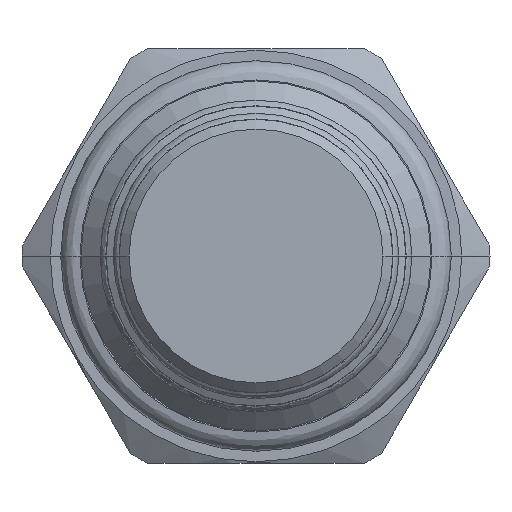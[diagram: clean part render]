
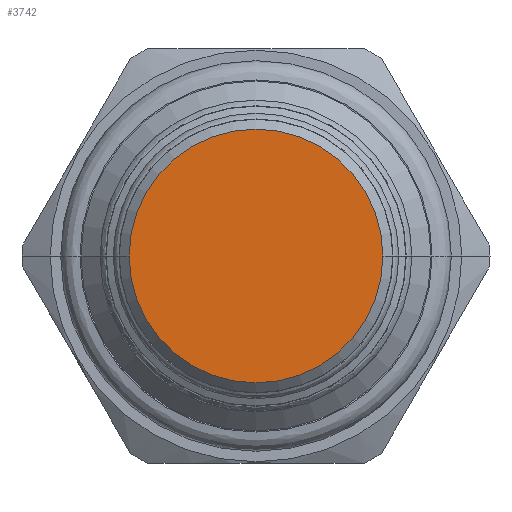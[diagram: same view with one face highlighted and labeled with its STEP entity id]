
A CAD part, front view. The second image highlights one B-rep face of the part: STEP entity #3742.
In plain terms, the highlighted planar face has unit normal (0, -1, 0).
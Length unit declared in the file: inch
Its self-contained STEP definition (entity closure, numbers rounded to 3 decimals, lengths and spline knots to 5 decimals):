
#1437=CARTESIAN_POINT('',(0.,-2.43665,0.));
#1438=DIRECTION('',(0.,-1.,0.));
#1439=DIRECTION('',(-1.,0.,0.));
#1440=AXIS2_PLACEMENT_3D('',#1437,#1438,#1439);
#1447=CARTESIAN_POINT('',(0.,-2.43665,0.));
#1448=DIRECTION('',(0.,-1.,0.));
#1449=DIRECTION('',(1.,0.,0.));
#1450=AXIS2_PLACEMENT_3D('',#1447,#1448,#1449);
#1579=CARTESIAN_POINT('',(-0.382,-2.43665,0.));
#1580=CARTESIAN_POINT('',(0.382,-2.43665,0.));
#1581=VERTEX_POINT('',#1579);
#1582=VERTEX_POINT('',#1580);
#3732=CARTESIAN_POINT('',(0.,-2.43665,0.));
#3733=DIRECTION('',(0.,1.,0.));
#3734=DIRECTION('',(1.,0.,0.));
#3735=AXIS2_PLACEMENT_3D('',#3732,#3733,#3734);
#3736=PLANE('',#3735);
#3737=ORIENTED_EDGE('',*,*,#3722,.F.);
#3739=ORIENTED_EDGE('',*,*,#3738,.F.);
#3740=EDGE_LOOP('',(#3737,#3739));
#3741=FACE_OUTER_BOUND('',#3740,.F.);
#3742=ADVANCED_FACE('',(#3741),#3736,.F.);
#1441=CIRCLE('',#1440,0.382);
#1451=CIRCLE('',#1450,0.382);
#3722=EDGE_CURVE('',#1581,#1582,#1441,.T.);
#3738=EDGE_CURVE('',#1582,#1581,#1451,.T.);
